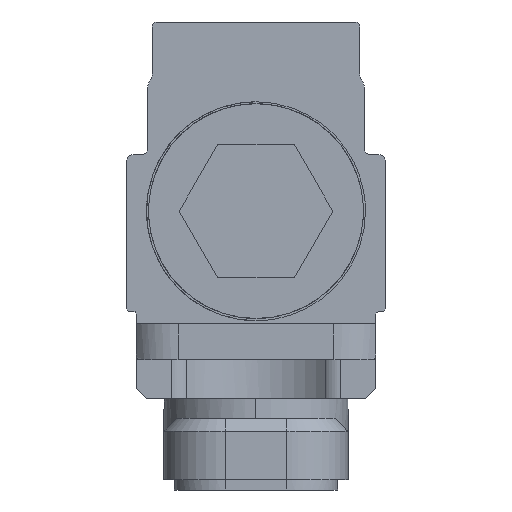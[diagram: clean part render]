
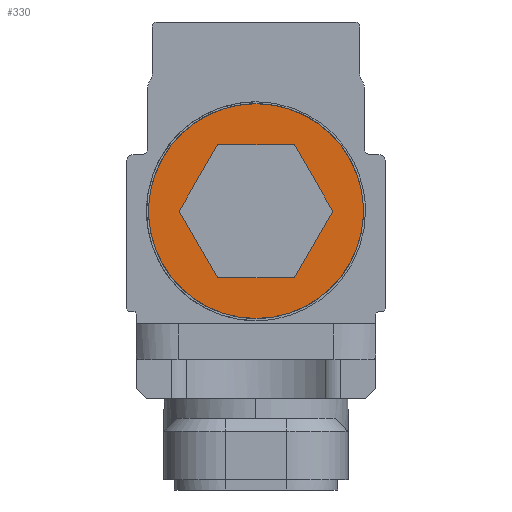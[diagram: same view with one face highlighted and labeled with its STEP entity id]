
A CAD part, left-side view. The second image highlights one B-rep face of the part: STEP entity #330.
In plain terms, the highlighted planar face has unit normal (-1, 0, 0).
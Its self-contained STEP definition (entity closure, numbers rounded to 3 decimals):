
#54=FACE_BOUND('',#1292,.T.);
#330=ADVANCED_FACE('',(#802,#54),#7453,.T.);
#802=FACE_OUTER_BOUND('',#1291,.T.);
#1291=EDGE_LOOP('',(#2817,#2818));
#1292=EDGE_LOOP('',(#2819,#2820,#2821,#2822,#2823,#2824));
#2817=ORIENTED_EDGE('',*,*,#4577,.T.);
#2818=ORIENTED_EDGE('',*,*,#4581,.T.);
#2819=ORIENTED_EDGE('',*,*,#4597,.F.);
#2820=ORIENTED_EDGE('',*,*,#4584,.F.);
#2821=ORIENTED_EDGE('',*,*,#4592,.F.);
#2822=ORIENTED_EDGE('',*,*,#4590,.F.);
#2823=ORIENTED_EDGE('',*,*,#4583,.F.);
#2824=ORIENTED_EDGE('',*,*,#4599,.F.);
#4577=EDGE_CURVE('',#6760,#6761,#5425,.T.);
#4581=EDGE_CURVE('',#6761,#6760,#5427,.T.);
#4583=EDGE_CURVE('',#6764,#6765,#6124,.T.);
#4584=EDGE_CURVE('',#6767,#6768,#6125,.T.);
#4590=EDGE_CURVE('',#6765,#6766,#6131,.T.);
#4592=EDGE_CURVE('',#6766,#6767,#6133,.T.);
#4597=EDGE_CURVE('',#6768,#6769,#6138,.T.);
#4599=EDGE_CURVE('',#6769,#6764,#6140,.T.);
#5425=(
BOUNDED_CURVE()
B_SPLINE_CURVE(2,(#13210,#13211,#13212,#13213,#13214),.UNSPECIFIED.,.F.,
 .F.)
B_SPLINE_CURVE_WITH_KNOTS((3,2,3),(0.,14.923,29.845),
 .UNSPECIFIED.)
CURVE()
GEOMETRIC_REPRESENTATION_ITEM()
RATIONAL_B_SPLINE_CURVE((1.,0.707,1.,0.707,1.))
REPRESENTATION_ITEM('')
);
#5427=(
BOUNDED_CURVE()
B_SPLINE_CURVE(2,(#13224,#13225,#13226,#13227,#13228),.UNSPECIFIED.,.F.,
 .F.)
B_SPLINE_CURVE_WITH_KNOTS((3,2,3),(29.845,44.768,59.69),
 .UNSPECIFIED.)
CURVE()
GEOMETRIC_REPRESENTATION_ITEM()
RATIONAL_B_SPLINE_CURVE((1.,0.707,1.,0.707,1.))
REPRESENTATION_ITEM('')
);
#6124=B_SPLINE_CURVE_WITH_KNOTS('',1,(#13234,#13235),.UNSPECIFIED.,.F.,
 .F.,(2,2),(0.,7.506),.UNSPECIFIED.);
#6125=B_SPLINE_CURVE_WITH_KNOTS('',1,(#13236,#13237),.UNSPECIFIED.,.F.,
 .F.,(2,2),(0.,7.506),.UNSPECIFIED.);
#6131=B_SPLINE_CURVE_WITH_KNOTS('',1,(#13248,#13249),.UNSPECIFIED.,.F.,
 .F.,(2,2),(-7.506,0.),.UNSPECIFIED.);
#6133=B_SPLINE_CURVE_WITH_KNOTS('',1,(#13252,#13253),.UNSPECIFIED.,.F.,
 .F.,(2,2),(-7.506,0.),.UNSPECIFIED.);
#6138=B_SPLINE_CURVE_WITH_KNOTS('',1,(#13262,#13263),.UNSPECIFIED.,.F.,
 .F.,(2,2),(-7.506,0.),.UNSPECIFIED.);
#6140=B_SPLINE_CURVE_WITH_KNOTS('',1,(#13266,#13267),.UNSPECIFIED.,.F.,
 .F.,(2,2),(-7.506,0.),.UNSPECIFIED.);
#6760=VERTEX_POINT('',#11338);
#6761=VERTEX_POINT('',#11339);
#6764=VERTEX_POINT('',#11342);
#6765=VERTEX_POINT('',#11343);
#6766=VERTEX_POINT('',#11344);
#6767=VERTEX_POINT('',#11345);
#6768=VERTEX_POINT('',#11346);
#6769=VERTEX_POINT('',#11347);
#7453=PLANE('',#7697);
#7697=AXIS2_PLACEMENT_3D('',#9815,#7924,$);
#7924=DIRECTION('',(-1.,0.,0.));
#9815=CARTESIAN_POINT('',(2828.567,-88.405,39.863));
#11338=CARTESIAN_POINT('',(2828.567,-75.805,37.763));
#11339=CARTESIAN_POINT('',(2828.567,-75.805,16.763));
#11342=CARTESIAN_POINT('',(2828.567,-72.052,20.763));
#11343=CARTESIAN_POINT('',(2828.567,-79.557,20.763));
#11344=CARTESIAN_POINT('',(2828.567,-83.31,27.263));
#11345=CARTESIAN_POINT('',(2828.567,-79.557,33.763));
#11346=CARTESIAN_POINT('',(2828.567,-72.052,33.763));
#11347=CARTESIAN_POINT('',(2828.567,-68.299,27.263));
#13210=CARTESIAN_POINT('',(2828.567,-75.805,37.763));
#13211=CARTESIAN_POINT('',(2828.567,-65.305,37.763));
#13212=CARTESIAN_POINT('',(2828.567,-65.305,27.263));
#13213=CARTESIAN_POINT('',(2828.567,-65.305,16.763));
#13214=CARTESIAN_POINT('',(2828.567,-75.805,16.763));
#13224=CARTESIAN_POINT('',(2828.567,-75.805,16.763));
#13225=CARTESIAN_POINT('',(2828.567,-86.305,16.763));
#13226=CARTESIAN_POINT('',(2828.567,-86.305,27.263));
#13227=CARTESIAN_POINT('',(2828.567,-86.305,37.763));
#13228=CARTESIAN_POINT('',(2828.567,-75.805,37.763));
#13234=CARTESIAN_POINT('',(2828.567,-72.052,20.763));
#13235=CARTESIAN_POINT('',(2828.567,-79.557,20.763));
#13236=CARTESIAN_POINT('',(2828.567,-79.557,33.763));
#13237=CARTESIAN_POINT('',(2828.567,-72.052,33.763));
#13248=CARTESIAN_POINT('',(2828.567,-79.557,20.763));
#13249=CARTESIAN_POINT('',(2828.567,-83.31,27.263));
#13252=CARTESIAN_POINT('',(2828.567,-83.31,27.263));
#13253=CARTESIAN_POINT('',(2828.567,-79.557,33.763));
#13262=CARTESIAN_POINT('',(2828.567,-72.052,33.763));
#13263=CARTESIAN_POINT('',(2828.567,-68.299,27.263));
#13266=CARTESIAN_POINT('',(2828.567,-68.299,27.263));
#13267=CARTESIAN_POINT('',(2828.567,-72.052,20.763));
